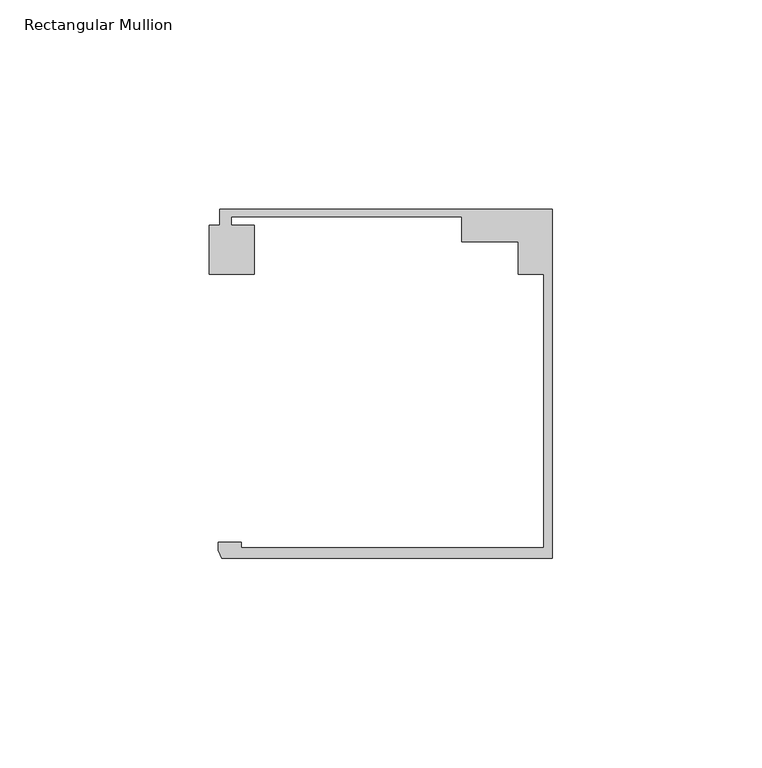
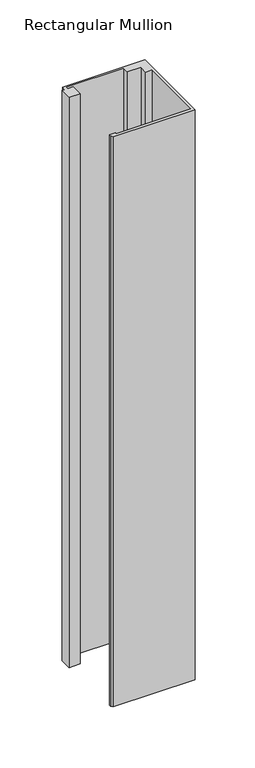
"""IFC4 building model written with IfcOpenShell, lengths in millimetres: member geometry, Rectangular Mullion : Danpal_Airpt_End-Mullion_B2."""

from ifc_helpers import new_model, si_unit, frame, origin, place, context, project, spatial, polyline, outline, extrude, source, transform, mapped, element, save


def rectangular_mullion_6c52e781(model_context):
    return source(origin(), model_context, "Body", "SweptSolid", [
        extrude(outline(polyline([(-2.0000001, -74.9940824), (-2.0000001, -9.7188964), (-8.1, -9.7188964), (-8.1, -1.8818054), (-21.5478166, -1.8818054), (-21.5478166, 4.0051512), (-76.6478166, 4.0051512), (-76.6478166, 2.0051513), (-71.1433532, 2.0051513), (-71.1433532, -9.6875514), (-81.8592324, -9.6875514), (-81.8592324, 2.0051513), (-79.3474874, 2.0051513), (-79.3474874, 5.8051514), (0.0, 5.8051514), (0.0, -77.4940825), (-78.8515009, -77.4940825), (-79.7784606, -75.5472671), (-79.7784606, -73.6940824), (-74.2474668, -73.6940824), (-74.2474668, -74.9940824), (-2.0000001, -74.9940824)])), frame((0.0, 0.0, -580.058414), z_axis=(0.0, 0.0, 1.0), x_axis=(1.0, 0.0, 0.0)), (0.0, 0.0, 1.0), 580.058414),
    ])


if __name__ == "__main__":
    model = new_model("IFC4")
    model_context = context("Model", 3, world=origin())
    ifc_project = project(units=[si_unit("LENGTHUNIT", "METRE", prefix="MILLI")], contexts=[model_context])
    site = spatial("IfcSite", under=ifc_project)
    building = spatial("IfcBuilding", under=site)
    placement = place(None, origin())
    rectangular_mullion_shape = rectangular_mullion_6c52e781(model_context)
    element("IfcMember", 1, ObjectType="Rectangular Mullion : Danpal_Airpt_End-Mullion_B2", at=placement, inside=building, context=model_context, shape_type="MappedRepresentation", body=[
        mapped(rectangular_mullion_shape, transform((0.0, 0.0, 0.0), x_axis=(1.0, 0.0, 0.0), y_axis=(0.0, 1.0, 0.0), z_axis=(0.0, 0.0, 1.0))),
    ])
    save(model, "model.ifc")
